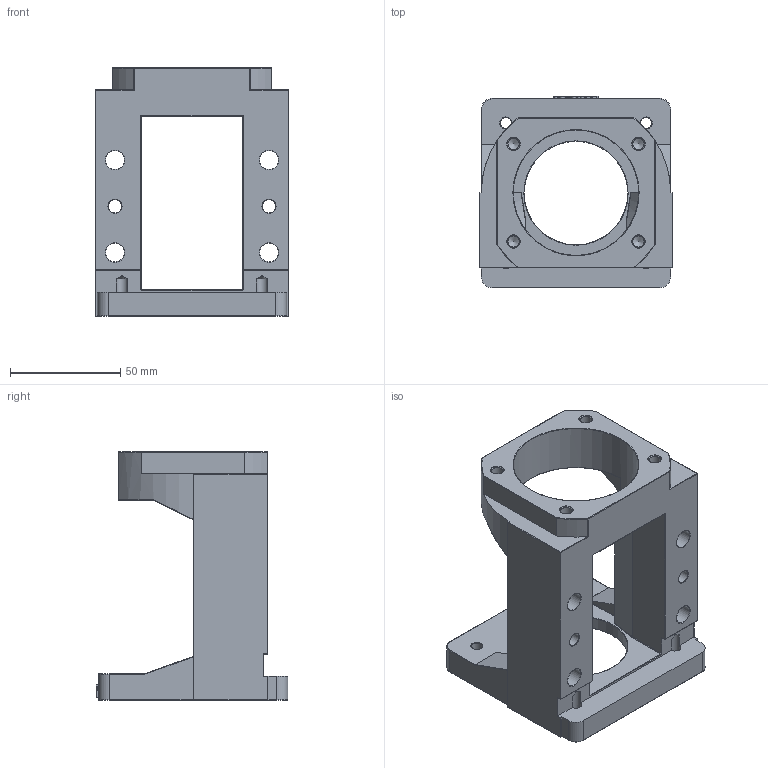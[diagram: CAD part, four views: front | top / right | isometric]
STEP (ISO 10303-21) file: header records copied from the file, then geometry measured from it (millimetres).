
FILE_DESCRIPTION(/* description */ (''),/* implementation_level */ '2;1');
FILE_NAME(/* name */ 'M80E-FKA20-A.stp',/* time_stamp */ '2016-10-27T10:25:04+08:00',/* author */ (''),/* organization */ (''),/* preprocessor_version */ 'ST-DEVELOPER v15',/* originating_system */ 'SIEMENS PLM Software NX 8.5',/* authorisation */ '');
FILE_SCHEMA (('CONFIG_CONTROL_DESIGN'));
Length unit declared in the file: millimetre
Products named in the file (1): MBA20-E
Bounding box: 88 x 87 x 113 mm (x, y, z)
Volume: 212374.8 mm3; surface area: 54799.9 mm2
Topology: 1 solids, 1 shells, 315 faces, 804 edges, 492 vertices
Faces by surface type: plane 107, cylinder 97, extrusion 41, torus 38, cone 16, sphere 10, bspline 6
Full cylindrical faces by diameter (mm): 5.1 x8, 6 x2, 8 x2, 8.5 x4, 14 x4, 47 x1, 57 x1, 70 x1
Entity records: 9880 total; most frequent: CARTESIAN_POINT 3002, ORIENTED_EDGE 1432, DIRECTION 1222, EDGE_CURVE 716, VERTEX_POINT 478, AXIS2_PLACEMENT_3D 448, EDGE_LOOP 410, VECTOR 326
